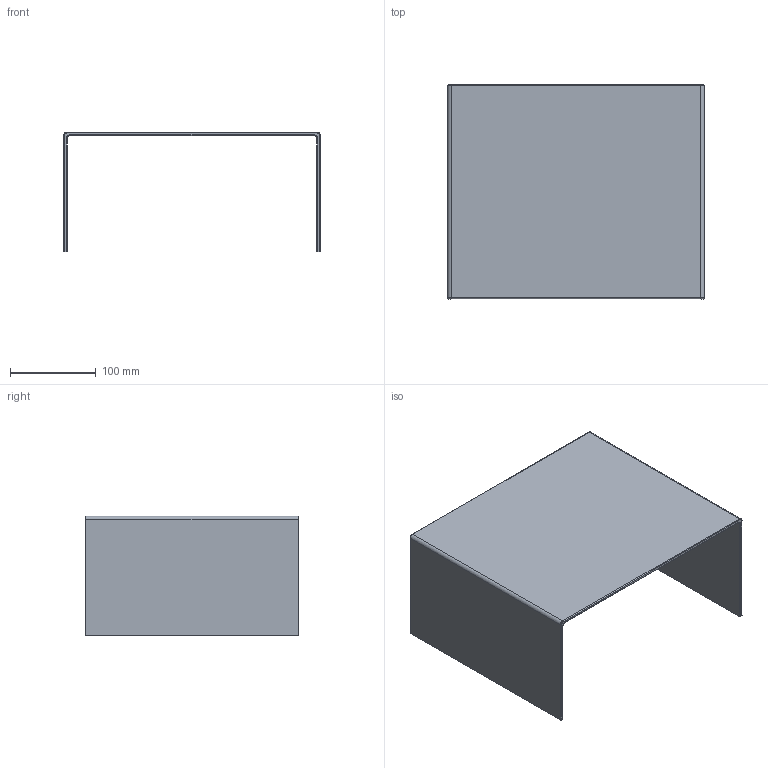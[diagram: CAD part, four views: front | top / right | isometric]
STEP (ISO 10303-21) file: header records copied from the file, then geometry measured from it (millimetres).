
FILE_DESCRIPTION (( 'STEP AP203' ), '1' );
FILE_NAME ('WL.Q30.00.STEP', '2026-03-02T11:02:41', ( '' ), ( '' ), 'SwSTEP 2.0', 'SolidWorks 2013', '' );
FILE_SCHEMA (( 'CONFIG_CONTROL_DESIGN' ));
Length unit declared in the file: millimetre
Products named in the file (1): WL.Q30.00
Bounding box: 300 x 250 x 140 mm (x, y, z)
Volume: 571511.9 mm3; surface area: 289881.3 mm2
Topology: 1 solids, 1 shells, 34 faces, 80 edges, 48 vertices
Faces by surface type: cylinder 16, plane 10, torus 8
Entity records: 1053 total; most frequent: DIRECTION 190, CARTESIAN_POINT 163, ORIENTED_EDGE 160, EDGE_CURVE 80, AXIS2_PLACEMENT_3D 75, VERTEX_POINT 48, LINE 40, CIRCLE 40
